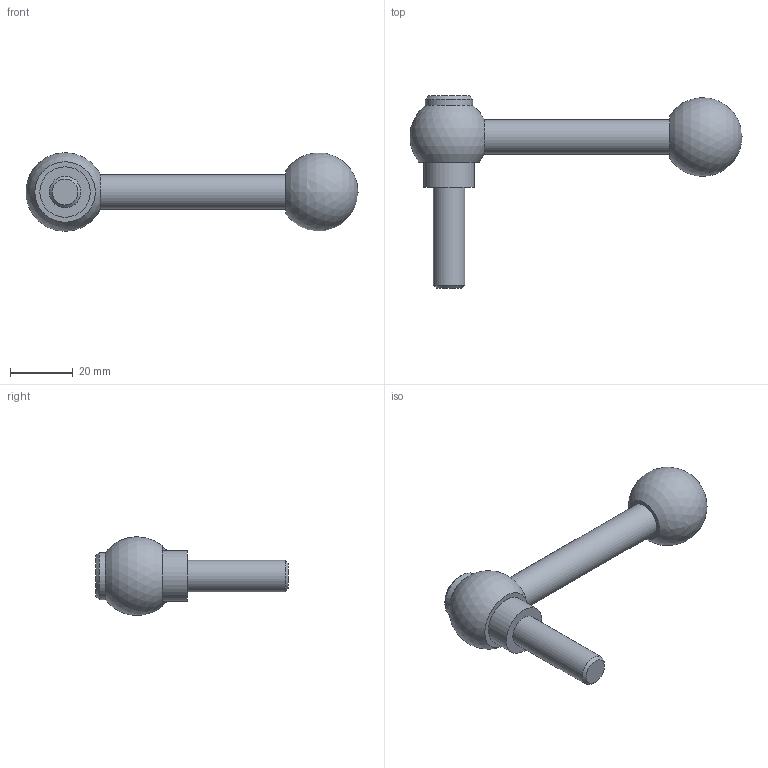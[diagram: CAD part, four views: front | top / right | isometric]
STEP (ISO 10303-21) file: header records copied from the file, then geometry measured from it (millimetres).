
FILE_DESCRIPTION( ( 'STEP AP203' ), '1' );
FILE_NAME( 'C:/Temp/Ganter_Step_05_03_2020/data/2_1/gn_6337_3/gn_6337_3_ms/gn_6337_3_ms_m/Adjustable clamping lever with bolt GN 6337.3-25-M10-32-M.stp', '2020-03-05T11:41:14', ( 'License CC BY-ND 4.0' ), ( 'CADENAS' ), ' ', 'PARTsolutions', ' ' );
FILE_SCHEMA( ( 'CONFIG_CONTROL_DESIGN' ) );
Length unit declared in the file: millimetre
Products named in the file (1): _Adjustable clamping lever with bolt GN 6337.3-25-M10-32-M
Bounding box: 105.41 x 61 x 24.99 mm (x, y, z)
Volume: 25425.7 mm3; surface area: 7169 mm2
Topology: 1 solids, 1 shells, 13 faces, 23 edges, 15 vertices
Faces by surface type: plane 5, cylinder 4, cone 2, sphere 2
Full cylindrical faces by diameter (mm): 10 x1, 11 x1, 15 x1, 16 x1
Entity records: 302 total; most frequent: DIRECTION 52, CARTESIAN_POINT 39, AXIS2_PLACEMENT_3D 26, EDGE_LOOP 24, ORIENTED_EDGE 24, FACE_OUTER_BOUND 18, ADVANCED_FACE 13, VERTEX_POINT 13
